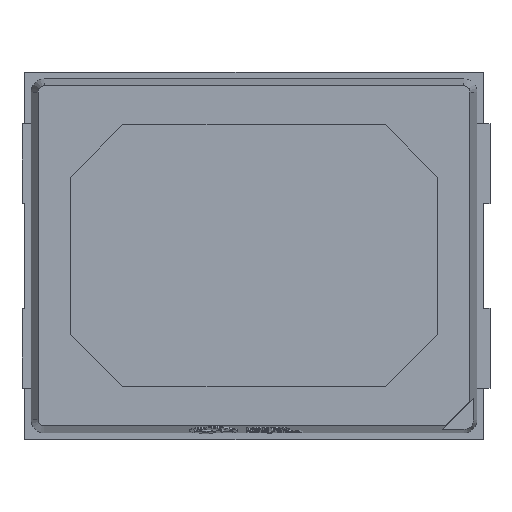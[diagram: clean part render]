
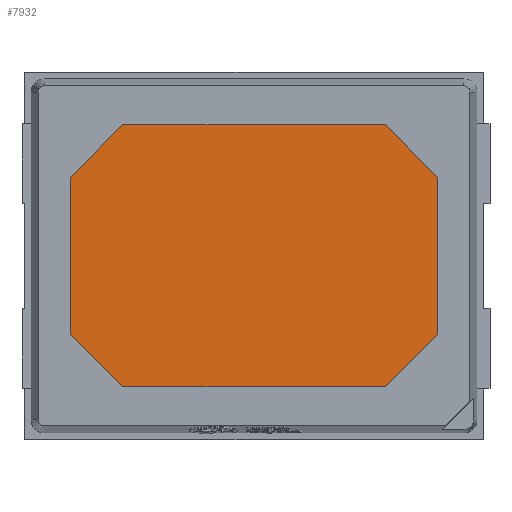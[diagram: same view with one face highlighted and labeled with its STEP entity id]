
A CAD part, top view. The second image highlights one B-rep face of the part: STEP entity #7932.
In plain terms, the highlighted planar face has unit normal (0, 0, 1).
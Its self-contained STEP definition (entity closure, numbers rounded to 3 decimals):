
#794 = CARTESIAN_POINT ( 'NONE',  ( -1., -1., 0.55 ) ) ;
#1002 = VECTOR ( 'NONE', #17202, 1000. ) ;
#1508 = DIRECTION ( 'NONE',  ( -0.707, -0.707, 0. ) ) ;
#1577 = AXIS2_PLACEMENT_3D ( 'NONE', #6362, #10792, #16457 ) ;
#1584 = CARTESIAN_POINT ( 'NONE',  ( -1., 1., 0.55 ) ) ;
#1778 = VECTOR ( 'NONE', #11146, 1000. ) ;
#2510 = PLANE ( 'NONE',  #1577 ) ;
#2617 = CARTESIAN_POINT ( 'NONE',  ( -1., -1., 0.55 ) ) ;
#3436 = VECTOR ( 'NONE', #1508, 1000. ) ;
#3637 = VERTEX_POINT ( 'NONE', #16955 ) ;
#3904 = LINE ( 'NONE', #2617, #12152 ) ;
#4329 = ORIENTED_EDGE ( 'NONE', *, *, #13612, .T. ) ;
#4944 = VERTEX_POINT ( 'NONE', #1584 ) ;
#4957 = LINE ( 'NONE', #13360, #16872 ) ;
#5016 = EDGE_LOOP ( 'NONE', ( #15330, #9061, #4329, #6396, #16571, #10678, #17549, #11881 ) ) ;
#5089 = VERTEX_POINT ( 'NONE', #6642 ) ;
#5262 = LINE ( 'NONE', #5447, #1778 ) ;
#5447 = CARTESIAN_POINT ( 'NONE',  ( -1.4, 0.6, 0.55 ) ) ;
#5746 = CARTESIAN_POINT ( 'NONE',  ( -1., 1., 0.55 ) ) ;
#5899 = CARTESIAN_POINT ( 'NONE',  ( 1., -1., 0.55 ) ) ;
#6019 = LINE ( 'NONE', #5746, #3436 ) ;
#6023 = CARTESIAN_POINT ( 'NONE',  ( 1., 1., 0.55 ) ) ;
#6358 = CARTESIAN_POINT ( 'NONE',  ( 1.4, 0.6, 0.55 ) ) ;
#6362 = CARTESIAN_POINT ( 'NONE',  ( 0., 0., 0.55 ) ) ;
#6396 = ORIENTED_EDGE ( 'NONE', *, *, #16342, .T. ) ;
#6642 = CARTESIAN_POINT ( 'NONE',  ( -1.4, 0.6, 0.55 ) ) ;
#7146 = EDGE_CURVE ( 'NONE', #3637, #7861, #16112, .T. ) ;
#7156 = EDGE_CURVE ( 'NONE', #8436, #4944, #7297, .T. ) ;
#7297 = LINE ( 'NONE', #6023, #15432 ) ;
#7861 = VERTEX_POINT ( 'NONE', #14599 ) ;
#7932 = ADVANCED_FACE ( 'NONE', ( #15057 ), #2510, .T. ) ;
#8248 = CARTESIAN_POINT ( 'NONE',  ( -1.4, -0.6, 0.55 ) ) ;
#8393 = VERTEX_POINT ( 'NONE', #8248 ) ;
#8436 = VERTEX_POINT ( 'NONE', #9802 ) ;
#8507 = DIRECTION ( 'NONE',  ( 0.707, 0.707, 0. ) ) ;
#9061 = ORIENTED_EDGE ( 'NONE', *, *, #13724, .T. ) ;
#9802 = CARTESIAN_POINT ( 'NONE',  ( 1., 1., 0.55 ) ) ;
#9885 = CARTESIAN_POINT ( 'NONE',  ( 1., -1., 0.55 ) ) ;
#10678 = ORIENTED_EDGE ( 'NONE', *, *, #16724, .T. ) ;
#10689 = LINE ( 'NONE', #6358, #16855 ) ;
#10792 = DIRECTION ( 'NONE',  ( 0., 0., 1. ) ) ;
#10896 = VECTOR ( 'NONE', #8507, 1000. ) ;
#11146 = DIRECTION ( 'NONE',  ( 0., -1., 0. ) ) ;
#11341 = DIRECTION ( 'NONE',  ( 0.707, -0.707, 0. ) ) ;
#11403 = EDGE_CURVE ( 'NONE', #4944, #5089, #6019, .T. ) ;
#11565 = CARTESIAN_POINT ( 'NONE',  ( 1.4, -0.6, 0.55 ) ) ;
#11824 = VERTEX_POINT ( 'NONE', #5899 ) ;
#11881 = ORIENTED_EDGE ( 'NONE', *, *, #11403, .T. ) ;
#12152 = VECTOR ( 'NONE', #13868, 1000. ) ;
#12200 = DIRECTION ( 'NONE',  ( -0.707, 0.707, 0. ) ) ;
#13360 = CARTESIAN_POINT ( 'NONE',  ( -1.4, -0.6, 0.55 ) ) ;
#13612 = EDGE_CURVE ( 'NONE', #14350, #11824, #3904, .T. ) ;
#13724 = EDGE_CURVE ( 'NONE', #8393, #14350, #4957, .T. ) ;
#13868 = DIRECTION ( 'NONE',  ( 1., 0., 0. ) ) ;
#14350 = VERTEX_POINT ( 'NONE', #794 ) ;
#14599 = CARTESIAN_POINT ( 'NONE',  ( 1.4, 0.6, 0.55 ) ) ;
#15057 = FACE_OUTER_BOUND ( 'NONE', #5016, .T. ) ;
#15330 = ORIENTED_EDGE ( 'NONE', *, *, #17331, .T. ) ;
#15432 = VECTOR ( 'NONE', #17286, 1000. ) ;
#16112 = LINE ( 'NONE', #11565, #1002 ) ;
#16342 = EDGE_CURVE ( 'NONE', #11824, #3637, #16929, .T. ) ;
#16457 = DIRECTION ( 'NONE',  ( 1., 0., 0. ) ) ;
#16571 = ORIENTED_EDGE ( 'NONE', *, *, #7146, .T. ) ;
#16724 = EDGE_CURVE ( 'NONE', #7861, #8436, #10689, .T. ) ;
#16855 = VECTOR ( 'NONE', #12200, 1000. ) ;
#16872 = VECTOR ( 'NONE', #11341, 1000. ) ;
#16929 = LINE ( 'NONE', #9885, #10896 ) ;
#16955 = CARTESIAN_POINT ( 'NONE',  ( 1.4, -0.6, 0.55 ) ) ;
#17202 = DIRECTION ( 'NONE',  ( 0., 1., 0. ) ) ;
#17286 = DIRECTION ( 'NONE',  ( -1., 0., 0. ) ) ;
#17331 = EDGE_CURVE ( 'NONE', #5089, #8393, #5262, .T. ) ;
#17549 = ORIENTED_EDGE ( 'NONE', *, *, #7156, .T. ) ;
